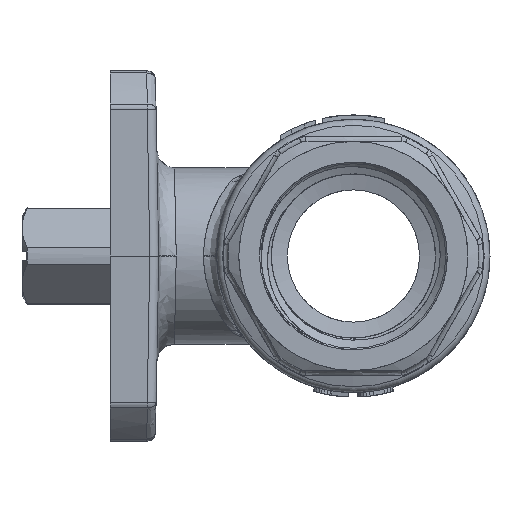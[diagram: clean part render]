
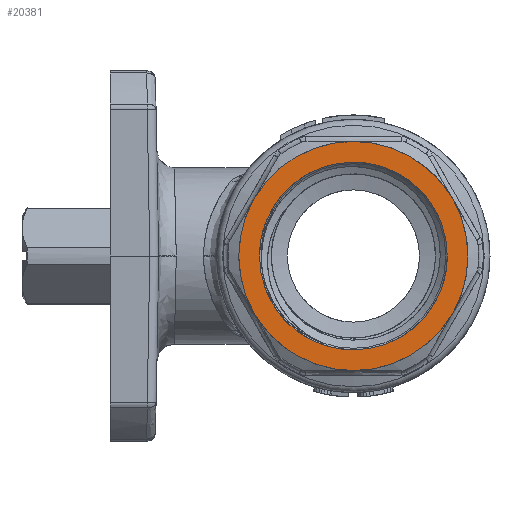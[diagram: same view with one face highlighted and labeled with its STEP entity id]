
A CAD part, left-side view. The second image highlights one B-rep face of the part: STEP entity #20381.
In plain terms, the highlighted planar face has unit normal (1, 0, 0).
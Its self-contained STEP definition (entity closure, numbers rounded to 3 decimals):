
#876=FACE_BOUND('',#25381,.T.);
#877=FACE_BOUND('',#25382,.T.);
#20381=ADVANCED_FACE('',(#876,#877),#21814,.T.);
#21814=PLANE('',#92193);
#25381=EDGE_LOOP('',(#44992,#44993,#44994,#44995));
#25382=EDGE_LOOP('',(#44996,#44997,#44998,#44999,#45000,#45001,#45002,#45003));
#44992=ORIENTED_EDGE('',*,*,#76080,.T.);
#44993=ORIENTED_EDGE('',*,*,#76081,.T.);
#44994=ORIENTED_EDGE('',*,*,#76082,.T.);
#44995=ORIENTED_EDGE('',*,*,#76083,.T.);
#44996=ORIENTED_EDGE('',*,*,#76084,.T.);
#44997=ORIENTED_EDGE('',*,*,#76085,.T.);
#44998=ORIENTED_EDGE('',*,*,#76086,.T.);
#44999=ORIENTED_EDGE('',*,*,#76087,.T.);
#45000=ORIENTED_EDGE('',*,*,#76088,.T.);
#45001=ORIENTED_EDGE('',*,*,#76089,.T.);
#45002=ORIENTED_EDGE('',*,*,#76090,.T.);
#45003=ORIENTED_EDGE('',*,*,#76091,.T.);
#60537=VERTEX_POINT('',#176151);
#60538=VERTEX_POINT('',#176152);
#60539=VERTEX_POINT('',#176163);
#60540=VERTEX_POINT('',#176174);
#60541=VERTEX_POINT('',#176189);
#60542=VERTEX_POINT('',#176190);
#60543=VERTEX_POINT('',#176195);
#60544=VERTEX_POINT('',#176202);
#60545=VERTEX_POINT('',#176209);
#60546=VERTEX_POINT('',#176214);
#60547=VERTEX_POINT('',#176219);
#60548=VERTEX_POINT('',#176226);
#76080=EDGE_CURVE('',#60537,#60538,#87707,.T.);
#76081=EDGE_CURVE('',#60538,#60539,#87708,.T.);
#76082=EDGE_CURVE('',#60539,#60540,#87709,.T.);
#76083=EDGE_CURVE('',#60540,#60537,#87710,.T.);
#76084=EDGE_CURVE('',#60541,#60542,#87711,.T.);
#76085=EDGE_CURVE('',#60542,#60543,#87712,.T.);
#76086=EDGE_CURVE('',#60543,#60544,#87713,.T.);
#76087=EDGE_CURVE('',#60544,#60545,#87714,.T.);
#76088=EDGE_CURVE('',#60545,#60546,#87715,.T.);
#76089=EDGE_CURVE('',#60546,#60547,#87716,.T.);
#76090=EDGE_CURVE('',#60547,#60548,#87717,.T.);
#76091=EDGE_CURVE('',#60548,#60541,#87718,.T.);
#87707=B_SPLINE_CURVE_WITH_KNOTS('',3,(#176141,#176142,#176143,#176144,#176145,
#176146,#176147,#176148,#176149,#176150),.UNSPECIFIED.,.F.,.F.,(4,2,2,2,
4),(0.,0.25,0.5,0.75,1.),.UNSPECIFIED.);
#87708=B_SPLINE_CURVE_WITH_KNOTS('',3,(#176153,#176154,#176155,#176156,#176157,
#176158,#176159,#176160,#176161,#176162),.UNSPECIFIED.,.F.,.F.,(4,2,2,2,
4),(0.,0.25,0.5,0.75,1.),.UNSPECIFIED.);
#87709=B_SPLINE_CURVE_WITH_KNOTS('',3,(#176164,#176165,#176166,#176167,#176168,
#176169,#176170,#176171,#176172,#176173),.UNSPECIFIED.,.F.,.F.,(4,2,2,2,
4),(0.,0.25,0.5,0.75,1.),.UNSPECIFIED.);
#87710=B_SPLINE_CURVE_WITH_KNOTS('',3,(#176175,#176176,#176177,#176178,#176179,
#176180,#176181,#176182,#176183,#176184),.UNSPECIFIED.,.F.,.F.,(4,2,2,2,
4),(0.,0.25,0.5,0.75,1.),.UNSPECIFIED.);
#87711=B_SPLINE_CURVE_WITH_KNOTS('',3,(#176185,#176186,#176187,#176188),
 .UNSPECIFIED.,.F.,.F.,(4,4),(0.,1.),.UNSPECIFIED.);
#87712=B_SPLINE_CURVE_WITH_KNOTS('',3,(#176191,#176192,#176193,#176194),
 .UNSPECIFIED.,.F.,.F.,(4,4),(0.,1.),.UNSPECIFIED.);
#87713=B_SPLINE_CURVE_WITH_KNOTS('',3,(#176196,#176197,#176198,#176199,#176200,
#176201),.UNSPECIFIED.,.F.,.F.,(4,2,4),(0.,0.5,1.),.UNSPECIFIED.);
#87714=B_SPLINE_CURVE_WITH_KNOTS('',3,(#176203,#176204,#176205,#176206,#176207,
#176208),.UNSPECIFIED.,.F.,.F.,(4,2,4),(0.,0.5,1.),.UNSPECIFIED.);
#87715=B_SPLINE_CURVE_WITH_KNOTS('',3,(#176210,#176211,#176212,#176213),
 .UNSPECIFIED.,.F.,.F.,(4,4),(0.,1.),.UNSPECIFIED.);
#87716=B_SPLINE_CURVE_WITH_KNOTS('',3,(#176215,#176216,#176217,#176218),
 .UNSPECIFIED.,.F.,.F.,(4,4),(0.,1.),.UNSPECIFIED.);
#87717=B_SPLINE_CURVE_WITH_KNOTS('',3,(#176220,#176221,#176222,#176223,#176224,
#176225),.UNSPECIFIED.,.F.,.F.,(4,2,4),(0.,0.5,1.),.UNSPECIFIED.);
#87718=B_SPLINE_CURVE_WITH_KNOTS('',3,(#176227,#176228,#176229,#176230,#176231,
#176232),.UNSPECIFIED.,.F.,.F.,(4,2,4),(0.,0.5,1.),.UNSPECIFIED.);
#92193=AXIS2_PLACEMENT_3D('',#176233,#100058,#100059);
#100058=DIRECTION('',(1.,0.,0.));
#100059=DIRECTION('',(0.,0.,1.));
#176141=CARTESIAN_POINT('',(-30.8,-10.65,0.));
#176142=CARTESIAN_POINT('',(-30.8,-10.65,1.264));
#176143=CARTESIAN_POINT('',(-30.8,-10.423,2.605));
#176144=CARTESIAN_POINT('',(-30.8,-9.382,5.235));
#176145=CARTESIAN_POINT('',(-30.8,-8.568,6.493));
#176146=CARTESIAN_POINT('',(-30.8,-6.493,8.568));
#176147=CARTESIAN_POINT('',(-30.8,-5.221,9.387));
#176148=CARTESIAN_POINT('',(-30.8,-2.619,10.417));
#176149=CARTESIAN_POINT('',(-30.8,-1.281,10.65));
#176150=CARTESIAN_POINT('',(-30.8,0.,10.65));
#176151=CARTESIAN_POINT('',(-30.8,-10.65,0.));
#176152=CARTESIAN_POINT('',(-30.8,0.,10.65));
#176153=CARTESIAN_POINT('',(-30.8,0.,10.65));
#176154=CARTESIAN_POINT('',(-30.8,1.264,10.65));
#176155=CARTESIAN_POINT('',(-30.8,2.605,10.423));
#176156=CARTESIAN_POINT('',(-30.8,5.235,9.382));
#176157=CARTESIAN_POINT('',(-30.8,6.493,8.568));
#176158=CARTESIAN_POINT('',(-30.8,8.568,6.493));
#176159=CARTESIAN_POINT('',(-30.8,9.387,5.221));
#176160=CARTESIAN_POINT('',(-30.8,10.417,2.619));
#176161=CARTESIAN_POINT('',(-30.8,10.65,1.281));
#176162=CARTESIAN_POINT('',(-30.8,10.65,0.));
#176163=CARTESIAN_POINT('',(-30.8,10.65,0.));
#176164=CARTESIAN_POINT('',(-30.8,10.65,0.));
#176165=CARTESIAN_POINT('',(-30.8,10.65,-1.264));
#176166=CARTESIAN_POINT('',(-30.8,10.423,-2.605));
#176167=CARTESIAN_POINT('',(-30.8,9.382,-5.235));
#176168=CARTESIAN_POINT('',(-30.8,8.568,-6.493));
#176169=CARTESIAN_POINT('',(-30.8,6.493,-8.568));
#176170=CARTESIAN_POINT('',(-30.8,5.221,-9.387));
#176171=CARTESIAN_POINT('',(-30.8,2.619,-10.417));
#176172=CARTESIAN_POINT('',(-30.8,1.281,-10.65));
#176173=CARTESIAN_POINT('',(-30.8,0.,-10.65));
#176174=CARTESIAN_POINT('',(-30.8,0.,-10.65));
#176175=CARTESIAN_POINT('',(-30.8,0.,-10.65));
#176176=CARTESIAN_POINT('',(-30.8,-1.264,-10.65));
#176177=CARTESIAN_POINT('',(-30.8,-2.605,-10.423));
#176178=CARTESIAN_POINT('',(-30.8,-5.235,-9.382));
#176179=CARTESIAN_POINT('',(-30.8,-6.493,-8.568));
#176180=CARTESIAN_POINT('',(-30.8,-8.568,-6.493));
#176181=CARTESIAN_POINT('',(-30.8,-9.387,-5.221));
#176182=CARTESIAN_POINT('',(-30.8,-10.417,-2.619));
#176183=CARTESIAN_POINT('',(-30.8,-10.65,-1.281));
#176184=CARTESIAN_POINT('',(-30.8,-10.65,0.));
#176185=CARTESIAN_POINT('',(-30.8,-11.258,6.5));
#176186=CARTESIAN_POINT('',(-30.8,-12.38,4.557));
#176187=CARTESIAN_POINT('',(-30.8,-13.,2.28));
#176188=CARTESIAN_POINT('',(-30.8,-13.,0.));
#176189=CARTESIAN_POINT('',(-30.8,-11.258,6.5));
#176190=CARTESIAN_POINT('',(-30.8,-13.,0.));
#176191=CARTESIAN_POINT('',(-30.8,-13.,0.));
#176192=CARTESIAN_POINT('',(-30.8,-13.,-2.283));
#176193=CARTESIAN_POINT('',(-30.8,-12.375,-4.565));
#176194=CARTESIAN_POINT('',(-30.8,-11.258,-6.5));
#176195=CARTESIAN_POINT('',(-30.8,-11.258,-6.5));
#176196=CARTESIAN_POINT('',(-30.8,-11.258,-6.5));
#176197=CARTESIAN_POINT('',(-30.8,-10.156,-8.409));
#176198=CARTESIAN_POINT('',(-30.8,-8.509,-10.099));
#176199=CARTESIAN_POINT('',(-30.8,-4.491,-12.418));
#176200=CARTESIAN_POINT('',(-30.8,-2.189,-13.));
#176201=CARTESIAN_POINT('',(-30.8,0.,-13.));
#176202=CARTESIAN_POINT('',(-30.8,0.,-13.));
#176203=CARTESIAN_POINT('',(-30.8,0.,-13.));
#176204=CARTESIAN_POINT('',(-30.8,2.204,-13.));
#176205=CARTESIAN_POINT('',(-30.8,4.491,-12.418));
#176206=CARTESIAN_POINT('',(-30.8,8.509,-10.099));
#176207=CARTESIAN_POINT('',(-30.8,10.164,-8.396));
#176208=CARTESIAN_POINT('',(-30.8,11.258,-6.5));
#176209=CARTESIAN_POINT('',(-30.8,11.258,-6.5));
#176210=CARTESIAN_POINT('',(-30.8,11.258,-6.5));
#176211=CARTESIAN_POINT('',(-30.8,12.38,-4.557));
#176212=CARTESIAN_POINT('',(-30.8,13.,-2.28));
#176213=CARTESIAN_POINT('',(-30.8,13.,0.));
#176214=CARTESIAN_POINT('',(-30.8,13.,0.));
#176215=CARTESIAN_POINT('',(-30.8,13.,0.));
#176216=CARTESIAN_POINT('',(-30.8,13.,2.283));
#176217=CARTESIAN_POINT('',(-30.8,12.375,4.565));
#176218=CARTESIAN_POINT('',(-30.8,11.258,6.5));
#176219=CARTESIAN_POINT('',(-30.8,11.258,6.5));
#176220=CARTESIAN_POINT('',(-30.8,11.258,6.5));
#176221=CARTESIAN_POINT('',(-30.8,10.156,8.409));
#176222=CARTESIAN_POINT('',(-30.8,8.509,10.099));
#176223=CARTESIAN_POINT('',(-30.8,4.491,12.418));
#176224=CARTESIAN_POINT('',(-30.8,2.189,13.));
#176225=CARTESIAN_POINT('',(-30.8,0.,13.));
#176226=CARTESIAN_POINT('',(-30.8,0.,13.));
#176227=CARTESIAN_POINT('',(-30.8,0.,13.));
#176228=CARTESIAN_POINT('',(-30.8,-2.204,13.));
#176229=CARTESIAN_POINT('',(-30.8,-4.491,12.418));
#176230=CARTESIAN_POINT('',(-30.8,-8.509,10.099));
#176231=CARTESIAN_POINT('',(-30.8,-10.164,8.396));
#176232=CARTESIAN_POINT('',(-30.8,-11.258,6.5));
#176233=CARTESIAN_POINT('',(-30.8,13.52,-13.52));
